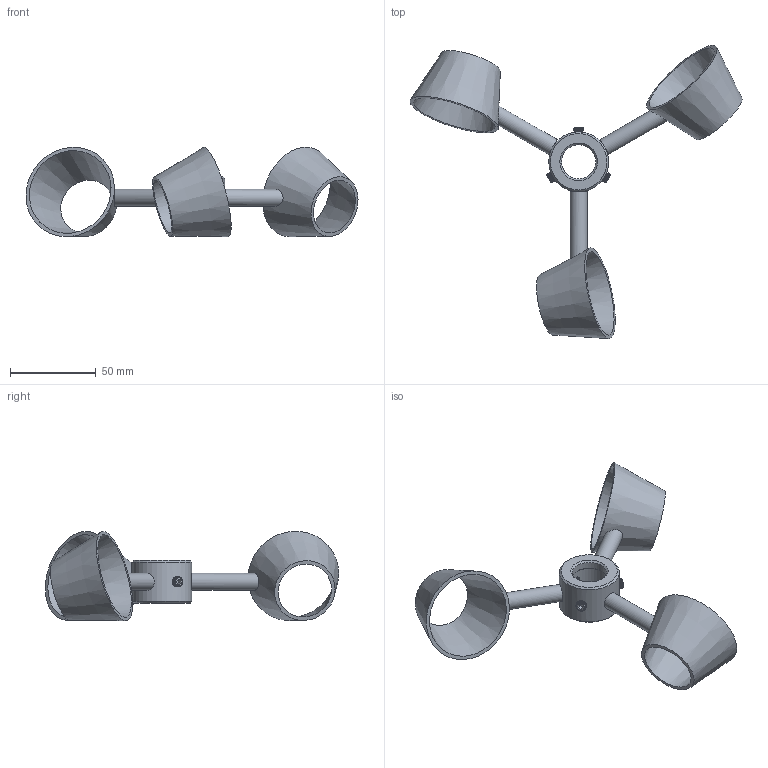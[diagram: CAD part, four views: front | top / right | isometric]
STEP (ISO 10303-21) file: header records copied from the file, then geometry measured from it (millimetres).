
FILE_DESCRIPTION (( 'STEP AP214' ), '1' );
FILE_NAME ('eco-Cup 210x20.STEP', '2025-05-23T12:14:27', ( '' ), ( '' ), 'SwSTEP 2.0', 'SolidWorks 2022', '' );
FILE_SCHEMA (( 'AUTOMOTIVE_DESIGN' ));
Length unit declared in the file: millimetre
Products named in the file (5): Scheibenabe_35x20; Rührarm_D10_DIN11852; eco-Cup 210x20; DIN 913 - M6 x 10-S_DIN 913 - M6 x 10-S; Becher_eco-Cup 210
Assembly tree (10 placements, depth 2):
  eco-Cup 210x20
    Scheibenabe_35x20
    Rührarm_D10_DIN11852  x3
    Becher_eco-Cup 210  x3
    DIN 913 - M6 x 10-S_DIN 913 - M6 x 10-S  x3
Bounding box: 194.14 x 171.49 x 52.23 mm (x, y, z)
Volume: 52176.5 mm3; surface area: 40130.8 mm2
Topology: 10 solids, 10 shells, 156 faces, 315 edges, 182 vertices
Faces by surface type: cone 78, plane 41, cylinder 37
Full cylindrical faces by diameter (mm): 5 x3, 6 x27, 10 x3, 20 x2, 21 x1, 35 x1
Entity records: 1926 total; most frequent: CARTESIAN_POINT 577, DIRECTION 266, ORIENTED_EDGE 148, AXIS2_PLACEMENT_3D 124, EDGE_LOOP 120, FACE_OUTER_BOUND 79, EDGE_CURVE 74, VERTEX_POINT 68
